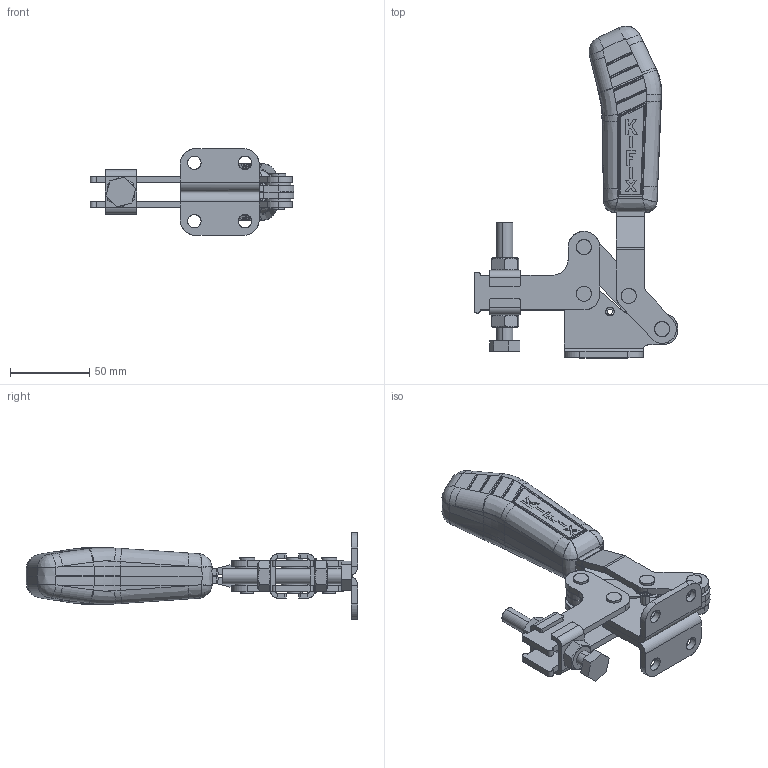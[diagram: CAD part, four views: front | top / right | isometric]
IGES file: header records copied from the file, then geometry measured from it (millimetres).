
Start section: SolidWorks IGES file using analytic representation for surfaces
Global section: file name: C:\Projetos\Grampos\KF-631\KF-631 D\KF-631 D.IGS; native system: SolidWorks 2013; preprocessor: SolidWorks 2013; author: Ricardo; date: 140801.113610; units: millimetre
Bounding box: 129 x 209.96 x 55 mm (x, y, z)
Surface area: 84504.4 mm2 (no closed solid volume)
Topology: 0 solids, 0 shells, 862 faces, 9990 edges, 9963 vertices
Faces by surface type: bspline 443, revolution 419
